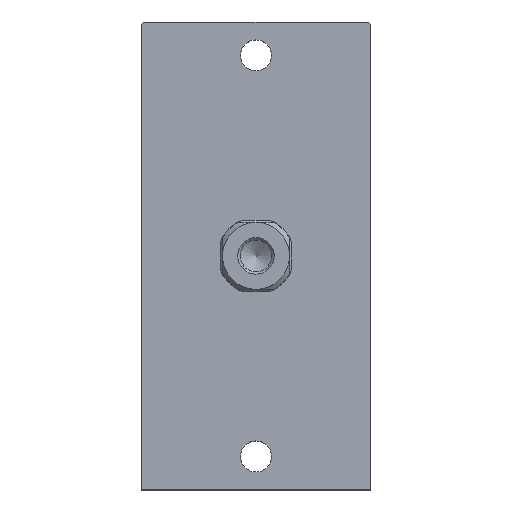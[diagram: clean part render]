
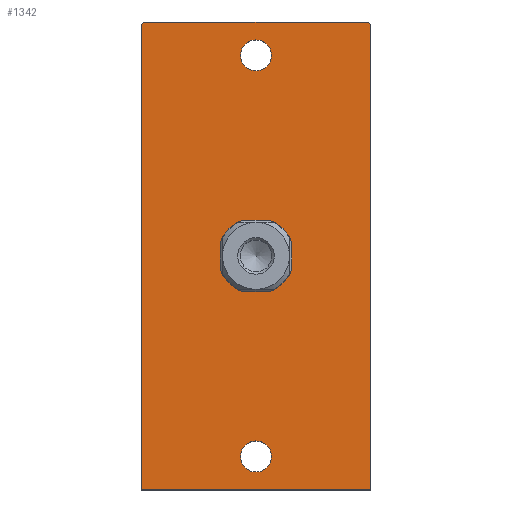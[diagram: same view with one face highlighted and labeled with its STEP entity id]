
A CAD part, top view. The second image highlights one B-rep face of the part: STEP entity #1342.
In plain terms, the highlighted planar face has unit normal (0, 0, 1).
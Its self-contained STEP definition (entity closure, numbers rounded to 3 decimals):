
#1067=CARTESIAN_POINT('',(36.017,48.5,16.0));
#1068=VERTEX_POINT('',#1067);
#1077=CARTESIAN_POINT('',(36.017,-49.0,16.0));
#1078=VERTEX_POINT('',#1077);
#1079=CARTESIAN_POINT('',(36.017,48.5,16.0));
#1080=DIRECTION('',(0.0,-1.0,0.0));
#1081=VECTOR('',#1080,97.5);
#1082=LINE('',#1079,#1081);
#1083=EDGE_CURVE('',#1068,#1078,#1082,.T.);
#1162=CARTESIAN_POINT('',(-11.983,48.5,16.0));
#1163=VERTEX_POINT('',#1162);
#1164=CARTESIAN_POINT('',(-11.483,49.0,16.0));
#1165=VERTEX_POINT('',#1164);
#1166=CARTESIAN_POINT('',(-11.983,48.5,16.0));
#1167=DIRECTION('',(0.707,0.707,0.0));
#1168=VECTOR('',#1167,0.707);
#1169=LINE('',#1166,#1168);
#1170=EDGE_CURVE('',#1163,#1165,#1169,.T.);
#1213=CARTESIAN_POINT('',(12.017,0.0,16.0));
#1214=DIRECTION('',(0.0,0.0,1.0));
#1215=DIRECTION('',(1.0,0.0,0.0));
#1216=AXIS2_PLACEMENT_3D('',#1213,#1214,#1215);
#1217=PLANE('',#1216);
#1218=ORIENTED_EDGE('',*,*,#1170,.F.);
#1219=CARTESIAN_POINT('',(-11.983,-49.0,16.0));
#1220=VERTEX_POINT('',#1219);
#1221=CARTESIAN_POINT('',(-11.983,-49.0,16.0));
#1222=DIRECTION('',(0.0,1.0,0.0));
#1223=VECTOR('',#1222,97.5);
#1224=LINE('',#1221,#1223);
#1225=EDGE_CURVE('',#1220,#1163,#1224,.T.);
#1226=ORIENTED_EDGE('',*,*,#1225,.F.);
#1227=CARTESIAN_POINT('',(36.017,-49.0,16.0));
#1228=DIRECTION('',(-1.0,0.0,0.0));
#1229=VECTOR('',#1228,48.);
#1230=LINE('',#1227,#1229);
#1231=EDGE_CURVE('',#1078,#1220,#1230,.T.);
#1232=ORIENTED_EDGE('',*,*,#1231,.F.);
#1233=ORIENTED_EDGE('',*,*,#1083,.F.);
#1234=CARTESIAN_POINT('',(35.517,49.0,16.0));
#1235=VERTEX_POINT('',#1234);
#1236=CARTESIAN_POINT('',(35.517,49.0,16.0));
#1237=DIRECTION('',(0.707,-0.707,0.0));
#1238=VECTOR('',#1237,0.707);
#1239=LINE('',#1236,#1238);
#1240=EDGE_CURVE('',#1235,#1068,#1239,.T.);
#1241=ORIENTED_EDGE('',*,*,#1240,.F.);
#1242=CARTESIAN_POINT('',(-11.483,49.0,16.0));
#1243=DIRECTION('',(1.0,0.0,0.0));
#1244=VECTOR('',#1243,47.);
#1245=LINE('',#1242,#1244);
#1246=EDGE_CURVE('',#1165,#1235,#1245,.T.);
#1247=ORIENTED_EDGE('',*,*,#1246,.F.);
#1248=EDGE_LOOP('',(#1218,#1226,#1232,#1233,#1241,#1247));
#1249=FACE_OUTER_BOUND('',#1248,.T.);
#1250=CARTESIAN_POINT('',(14.801,7.5,16.));
#1251=VERTEX_POINT('',#1250);
#1252=CARTESIAN_POINT('',(19.517,2.784,16.));
#1253=VERTEX_POINT('',#1252);
#1254=CARTESIAN_POINT('',(12.017,0.0,16.0));
#1255=DIRECTION('',(0.0,0.0,-1.0));
#1256=DIRECTION('',(0.0,1.0,0.0));
#1257=AXIS2_PLACEMENT_3D('',#1254,#1255,#1256);
#1258=CIRCLE('',#1257,8.);
#1259=EDGE_CURVE('',#1251,#1253,#1258,.T.);
#1260=ORIENTED_EDGE('',*,*,#1259,.T.);
#1261=CARTESIAN_POINT('',(19.517,-2.784,16.));
#1262=VERTEX_POINT('',#1261);
#1263=CARTESIAN_POINT('',(19.517,-2.784,16.));
#1264=DIRECTION('',(0.0,1.0,0.0));
#1265=VECTOR('',#1264,5.568);
#1266=LINE('',#1263,#1265);
#1267=EDGE_CURVE('',#1262,#1253,#1266,.T.);
#1268=ORIENTED_EDGE('',*,*,#1267,.F.);
#1269=CARTESIAN_POINT('',(14.801,-7.5,16.));
#1270=VERTEX_POINT('',#1269);
#1271=CARTESIAN_POINT('',(12.017,0.0,16.0));
#1272=DIRECTION('',(0.0,0.0,-1.0));
#1273=DIRECTION('',(0.0,1.0,0.0));
#1274=AXIS2_PLACEMENT_3D('',#1271,#1272,#1273);
#1275=CIRCLE('',#1274,8.);
#1276=EDGE_CURVE('',#1262,#1270,#1275,.T.);
#1277=ORIENTED_EDGE('',*,*,#1276,.T.);
#1278=CARTESIAN_POINT('',(9.233,-7.5,16.));
#1279=VERTEX_POINT('',#1278);
#1280=CARTESIAN_POINT('',(9.233,-7.5,16.));
#1281=DIRECTION('',(1.0,0.0,0.0));
#1282=VECTOR('',#1281,5.568);
#1283=LINE('',#1280,#1282);
#1284=EDGE_CURVE('',#1279,#1270,#1283,.T.);
#1285=ORIENTED_EDGE('',*,*,#1284,.F.);
#1286=CARTESIAN_POINT('',(4.517,-2.784,16.));
#1287=VERTEX_POINT('',#1286);
#1288=CARTESIAN_POINT('',(12.017,0.0,16.0));
#1289=DIRECTION('',(0.0,0.0,-1.0));
#1290=DIRECTION('',(0.0,1.0,0.0));
#1291=AXIS2_PLACEMENT_3D('',#1288,#1289,#1290);
#1292=CIRCLE('',#1291,8.);
#1293=EDGE_CURVE('',#1279,#1287,#1292,.T.);
#1294=ORIENTED_EDGE('',*,*,#1293,.T.);
#1295=CARTESIAN_POINT('',(4.517,2.784,16.));
#1296=VERTEX_POINT('',#1295);
#1297=CARTESIAN_POINT('',(4.517,2.784,16.));
#1298=DIRECTION('',(0.0,-1.0,0.0));
#1299=VECTOR('',#1298,5.568);
#1300=LINE('',#1297,#1299);
#1301=EDGE_CURVE('',#1296,#1287,#1300,.T.);
#1302=ORIENTED_EDGE('',*,*,#1301,.F.);
#1303=CARTESIAN_POINT('',(9.233,7.5,16.));
#1304=VERTEX_POINT('',#1303);
#1305=CARTESIAN_POINT('',(12.017,0.0,16.0));
#1306=DIRECTION('',(0.0,0.0,-1.0));
#1307=DIRECTION('',(0.0,1.0,0.0));
#1308=AXIS2_PLACEMENT_3D('',#1305,#1306,#1307);
#1309=CIRCLE('',#1308,8.);
#1310=EDGE_CURVE('',#1296,#1304,#1309,.T.);
#1311=ORIENTED_EDGE('',*,*,#1310,.T.);
#1312=CARTESIAN_POINT('',(14.801,7.5,16.));
#1313=DIRECTION('',(-1.0,0.0,0.0));
#1314=VECTOR('',#1313,5.568);
#1315=LINE('',#1312,#1314);
#1316=EDGE_CURVE('',#1251,#1304,#1315,.T.);
#1317=ORIENTED_EDGE('',*,*,#1316,.F.);
#1318=EDGE_LOOP('',(#1260,#1268,#1277,#1285,#1294,#1302,#1311,#1317));
#1319=FACE_BOUND('',#1318,.T.);
#1320=CARTESIAN_POINT('',(15.267,-42.0,16.0));
#1321=VERTEX_POINT('',#1320);
#1322=CARTESIAN_POINT('',(12.017,-42.0,16.0));
#1323=DIRECTION('',(0.0,0.0,-1.0));
#1324=DIRECTION('',(-1.0,0.0,0.0));
#1325=AXIS2_PLACEMENT_3D('',#1322,#1323,#1324);
#1326=CIRCLE('',#1325,3.25);
#1327=EDGE_CURVE('',#1321,#1321,#1326,.T.);
#1328=ORIENTED_EDGE('',*,*,#1327,.T.);
#1329=EDGE_LOOP('',(#1328));
#1330=FACE_BOUND('',#1329,.T.);
#1331=CARTESIAN_POINT('',(15.267,42.0,16.0));
#1332=VERTEX_POINT('',#1331);
#1333=CARTESIAN_POINT('',(12.017,42.0,16.0));
#1334=DIRECTION('',(0.0,0.0,-1.0));
#1335=DIRECTION('',(-1.0,0.0,0.0));
#1336=AXIS2_PLACEMENT_3D('',#1333,#1334,#1335);
#1337=CIRCLE('',#1336,3.25);
#1338=EDGE_CURVE('',#1332,#1332,#1337,.T.);
#1339=ORIENTED_EDGE('',*,*,#1338,.T.);
#1340=EDGE_LOOP('',(#1339));
#1341=FACE_BOUND('',#1340,.T.);
#1342=ADVANCED_FACE('',(#1249,#1319,#1330,#1341),#1217,.T.);
